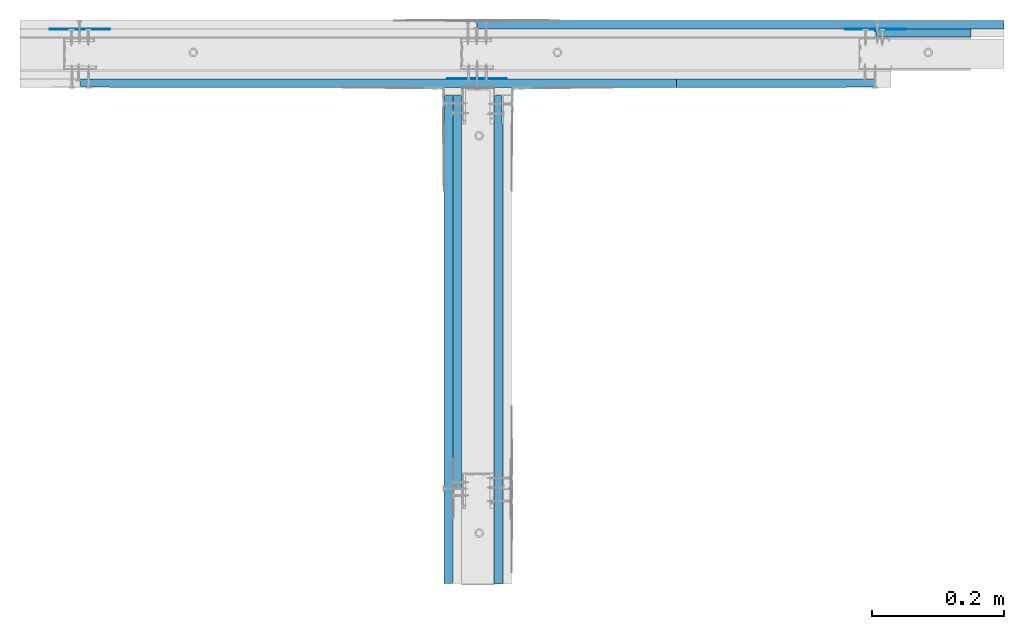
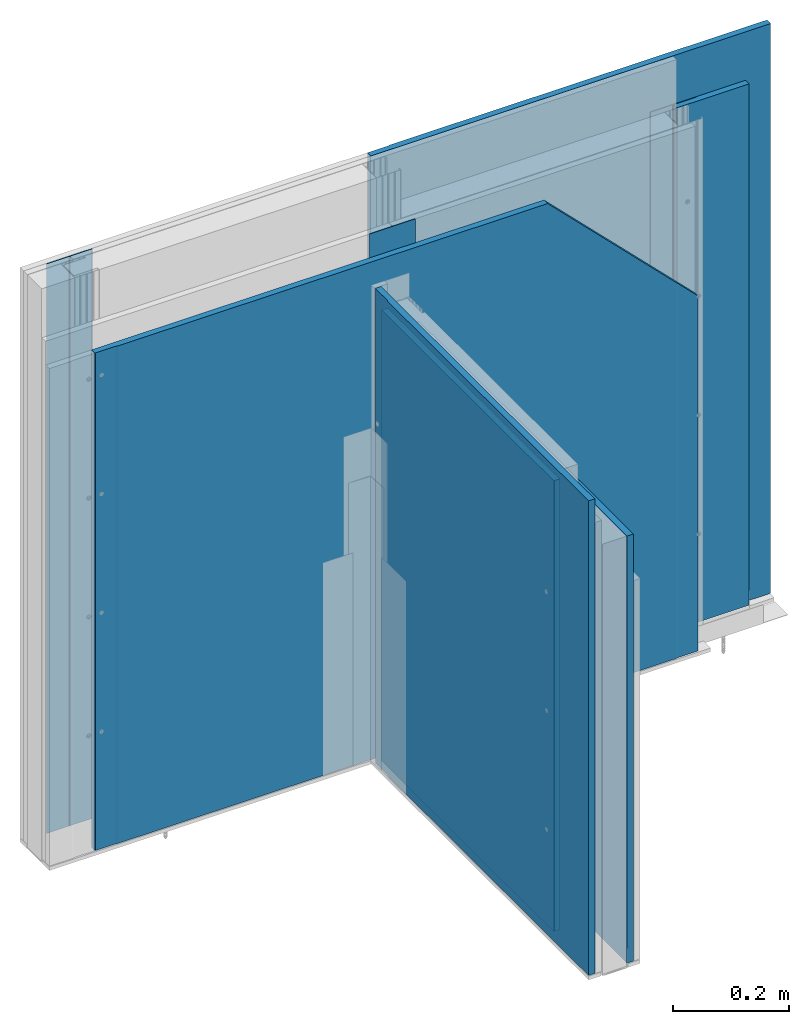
# One storey, part 4 of 89: 9 walls.
"""IFC2X3 building model written with IfcOpenShell, lengths in millimetres."""

from ifc_helpers import new_model, entity, si_unit, converted_unit, direction, frame, origin, origin_with_axes, place, context, project, spatial, faceted_brep, element, save


model = new_model("IFC2X3")

# Units and contexts
model_context = context("Model", 3, precision=1e-05, world=origin(), true_north=direction((0.0, 1.0, 0.0)))
ifc_project = project(units=[si_unit("LENGTHUNIT", "METRE", prefix="MILLI"), si_unit("AREAUNIT", "SQUARE_METRE"), si_unit("VOLUMEUNIT", "CUBIC_METRE"), converted_unit("PLANEANGLEUNIT", "DEGREE", entity("IfcPlaneAngleMeasure", 0.01745), si_unit("PLANEANGLEUNIT", "RADIAN"), dimensions=[0, 0, 0, 0, 0, 0, 0]), si_unit("SOLIDANGLEUNIT", "STERADIAN"), si_unit("MASSUNIT", "GRAM"), si_unit("TIMEUNIT", "SECOND"), si_unit("THERMODYNAMICTEMPERATUREUNIT", "DEGREE_CELSIUS"), si_unit("LUMINOUSINTENSITYUNIT", "LUMEN")], contexts=[model_context])

# Site, building, storey
site_placement = place(None, origin_with_axes())
site = spatial("IfcSite", under=ifc_project, at=site_placement, Name="Default Site", CompositionType="ELEMENT")
building_placement = place(site_placement, origin_with_axes())
building = spatial("IfcBuilding", under=site, at=building_placement, Name="Default Building", CompositionType="ELEMENT")
storey_placement = place(building_placement, origin_with_axes())
storey = spatial("IfcBuildingStorey", under=building, at=storey_placement, Name="Default Building Storey", CompositionType="ELEMENT", Elevation=0.0)

# Walls
wall_1_placement = place(storey_placement, frame((4154.418329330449, -1279.954953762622, 407.7387577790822), z_axis=(0.0, 0.0, 1.0), x_axis=(1.0, 0.0, 0.0)))
element("IfcWall", 1, at=wall_1_placement, inside=storey, Name="Dedykowana masa szpachlowa Rigips - konstrukcyjna", context=model_context, shape_type="Brep", body=[
    faceted_brep([(-737.48383966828, 3387.669590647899, 700.510239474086), (-737.4592163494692, 3387.356721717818, 700.510239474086), (-737.4345930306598, 3387.669590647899, 700.510239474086), (-737.3613293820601, 3387.974755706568, 700.510239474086), (-737.2412293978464, 3388.264702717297, 700.510239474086), (-737.0772503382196, 3388.532292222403, 700.510239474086), (-736.8734299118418, 3388.770935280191, 700.510239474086), (-736.6347868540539, 3388.974755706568, 700.510239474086), (-736.3671973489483, 3389.138734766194, 700.510239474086), (-736.0772503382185, 3389.258834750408, 700.510239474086), (-735.7720852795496, 3389.332098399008, 700.510239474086), (-735.4592163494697, 3389.356721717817, 700.510239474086), (-692.4592163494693, 3389.356721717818, 700.510239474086), (-691.4592163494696, 3390.556721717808, 700.510239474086), (-782.873429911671, 3390.556721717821, 700.510239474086), (-782.873429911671, 3389.356721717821, 700.510239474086), (-739.4592163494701, 3389.356721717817, 700.510239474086), (-739.1463474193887, 3389.332098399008, 700.510239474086), (-738.8411823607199, 3389.258834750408, 700.510239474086), (-738.5512353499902, 3389.138734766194, 700.510239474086), (-738.2836458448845, 3388.974755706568, 700.510239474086), (-738.0450027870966, 3388.770935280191, 700.510239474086), (-737.8411823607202, 3388.532292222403, 700.510239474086), (-737.6772033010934, 3388.264702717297, 700.510239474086), (-737.5571033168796, 3387.974755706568, 700.510239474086), (-691.4592163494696, 3390.556721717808, -395.9886932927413), (-692.4592163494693, 3389.356721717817, -395.9886932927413), (-735.4592163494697, 3389.356721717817, -395.9886932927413), (-735.7720852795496, 3389.332098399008, -395.9886932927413), (-736.0772503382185, 3389.258834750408, -395.9886932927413), (-736.3671973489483, 3389.138734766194, -395.9886932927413), (-736.6347868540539, 3388.974755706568, -395.9886932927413), (-736.8734299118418, 3388.77093528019, -395.9886932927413), (-737.0772503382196, 3388.532292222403, -395.9886932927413), (-737.2412293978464, 3388.264702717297, -395.9886932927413), (-737.3613293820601, 3387.974755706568, -395.9886932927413), (-737.4345930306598, 3387.669590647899, -395.9886932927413), (-737.4592163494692, 3387.356721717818, -395.9886932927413), (-737.48383966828, 3387.669590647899, -395.9886932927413), (-737.5571033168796, 3387.974755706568, -395.9886932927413), (-737.6772033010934, 3388.264702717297, -395.9886932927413), (-737.8411823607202, 3388.532292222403, -395.9886932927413), (-738.0450027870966, 3388.77093528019, -395.9886932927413), (-738.2836458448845, 3388.974755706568, -395.9886932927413), (-738.5512353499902, 3389.138734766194, -395.9886932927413), (-738.8411823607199, 3389.258834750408, -395.9886932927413), (-739.1463474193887, 3389.332098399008, -395.9886932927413), (-739.4592163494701, 3389.356721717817, -395.9886932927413), (-782.873429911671, 3389.356721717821, -395.9886932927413), (-782.873429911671, 3390.556721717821, -395.9886932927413)], [[[0, 1, 2, 3, 4, 5, 6, 7, 8, 9, 10, 11, 12, 13, 14, 15, 16, 17, 18, 19, 20, 21, 22, 23, 24]], [[25, 26, 27, 28, 29, 30, 31, 32, 33, 34, 35, 36, 37, 38, 39, 40, 41, 42, 43, 44, 45, 46, 47, 48, 49]], [[26, 12, 11, 27]], [[10, 9, 29, 28]], [[28, 27, 11, 10]], [[8, 30, 29, 9]], [[7, 6, 32, 31]], [[31, 30, 8, 7]], [[5, 4, 34, 33]], [[33, 32, 6, 5]], [[3, 35, 34, 4]], [[2, 1, 37, 36]], [[36, 35, 3, 2]], [[0, 24, 39, 38]], [[38, 37, 1, 0]], [[23, 40, 39, 24]], [[22, 21, 42, 41]], [[41, 40, 23, 22]], [[20, 19, 44, 43]], [[43, 42, 21, 20]], [[18, 45, 44, 19]], [[17, 16, 47, 46]], [[46, 45, 18, 17]], [[47, 16, 15, 48]], [[48, 15, 14, 49]], [[49, 14, 13, 25]], [[25, 13, 12, 26]]]),
])
wall_2_placement = place(storey_placement, frame((3417.959112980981, 2098.101767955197, 1403.656223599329), z_axis=(0.0, 0.0, 1.0), x_axis=(1.0, 0.0, 0.0)))
element("IfcWall", 2, at=wall_2_placement, inside=storey, Name="Płyta gipsowo-kartonowa RIGIPS PRO (4PRO™)", context=model_context, shape_type="Brep", body=[
    faceted_brep([(143.1967559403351, 12.49999999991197, -295.4072263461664), (143.1967559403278, -8.951701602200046e-11, -295.4072263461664), (143.1967559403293, -8.915606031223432e-11, -1391.906159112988), (143.1967559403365, 12.49999999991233, -1391.906159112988), (0.0, 0.0, -295.4072263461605), (44.99999999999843, 12.50000000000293, -295.4072263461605), (40.99999999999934, 11.50000000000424, -295.4072263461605), (0.9999999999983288, 11.5000000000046, -295.4072263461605), (0.7411809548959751, 11.46592582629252, -295.4072263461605), (0.4999999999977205, 11.3660254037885, -295.4072263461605), (0.2928932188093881, 11.20710678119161, -295.4072263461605), (0.1339745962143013, 11.00000000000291, -295.4072263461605), (0.03407417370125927, 10.7588190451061, -295.4072263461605), (-2.887645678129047e-12, 10.50000000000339, -295.4072263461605), (44.99999999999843, 12.50000000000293, -1391.906159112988), (40.99999999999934, 11.50000000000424, -1391.906159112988), (0.9999999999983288, 11.5000000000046, -1391.906159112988), (0.7411809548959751, 11.46592582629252, -1391.906159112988), (0.4999999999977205, 11.3660254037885, -1391.906159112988), (0.2928932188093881, 11.20710678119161, -1391.906159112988), (0.1339745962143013, 11.00000000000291, -1391.906159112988), (0.03407417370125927, 10.7588190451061, -1391.906159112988), (-2.887645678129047e-12, 10.50000000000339, -1391.906159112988), (0.0, 0.0, -1391.906159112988)], [[[0, 1, 2, 3]], [[4, 1, 0, 5, 6, 7, 8, 9, 10, 11, 12, 13]], [[0, 3, 14, 5]], [[6, 5, 14, 15]], [[7, 6, 15, 16]], [[8, 7, 16, 17]], [[9, 8, 17, 18]], [[10, 9, 18, 19]], [[11, 10, 19, 20]], [[12, 11, 20, 21]], [[13, 12, 21, 22]], [[4, 13, 22, 23]], [[23, 2, 1, 4]], [[14, 3, 2, 23, 22, 21, 20, 19, 18, 17, 16, 15]]]),
])
wall_3_placement = place(storey_placement, frame((2815.544899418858, 2110.601767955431, 1155.534172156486), z_axis=(0.0, 0.0, 1.0), x_axis=(1.0, 0.0, 0.0)))
element("IfcWall", 3, at=wall_3_placement, inside=storey, Name="Płyta gipsowo-kartonowa RIGIPS PRO (4PRO™)", context=model_context, shape_type="Brep", body=[
    faceted_brep([(795.6109695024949, 12.49999999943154, 54.46582784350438), (795.6109695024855, -5.40711653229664e-10, 54.46582784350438), (795.6109695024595, -5.371020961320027e-10, -1143.784107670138), (795.6109695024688, 12.49999999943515, -1143.784107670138), (44.99999999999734, 12.50000000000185, 54.46582784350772), (40.99999999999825, 11.50000000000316, 54.46582784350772), (0.9999999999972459, 11.50000000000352, 54.46582784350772), (0.7411809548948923, 11.46592582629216, 54.46582784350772), (0.4999999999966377, 11.36602540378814, 54.46582784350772), (0.2928932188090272, 11.20710678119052, 54.46582784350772), (0.1339745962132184, 11.00000000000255, 54.46582784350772), (0.0340741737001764, 10.75881904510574, 54.46582784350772), (-3.248601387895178e-12, 10.50000000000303, 54.46582784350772), (-1.082867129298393e-12, -3.609557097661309e-13, 54.46582784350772), (44.99999999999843, 12.50000000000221, -1143.784107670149), (40.99999999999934, 11.50000000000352, -1143.784107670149), (0.9999999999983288, 11.50000000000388, -1143.784107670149), (0.7411809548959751, 11.46592582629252, -1143.784107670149), (0.4999999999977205, 11.3660254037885, -1143.784107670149), (0.29289321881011, 11.20710678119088, -1143.784107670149), (0.1339745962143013, 11.00000000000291, -1143.784107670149), (0.03407417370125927, 10.7588190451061, -1143.784107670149), (-2.165734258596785e-12, 10.50000000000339, -1143.784107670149), (0.0, 0.0, -1143.784107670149)], [[[0, 1, 2, 3]], [[0, 4, 5, 6, 7, 8, 9, 10, 11, 12, 13, 1]], [[3, 14, 4, 0]], [[5, 4, 14, 15]], [[6, 5, 15, 16]], [[7, 6, 16, 17]], [[8, 7, 17, 18]], [[9, 8, 18, 19]], [[10, 9, 19, 20]], [[11, 10, 20, 21]], [[12, 11, 21, 22]], [[13, 12, 22, 23]], [[2, 1, 13, 23]], [[14, 3, 2, 23, 22, 21, 20, 19, 18, 17, 16, 15]]]),
])
wall_4_placement = place(storey_placement, frame((2077.898464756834, 5425.197644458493, 507.4489972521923), z_axis=(9.253708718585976e-14, 3.116096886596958e-13, 1.0), x_axis=(-1.0, 8.88178419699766e-16, 9.253708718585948e-14)))
element("IfcWall", 4, at=wall_4_placement, inside=storey, Name="Dedykowana masa szpachlowa Rigips - konstrukcyjna", context=model_context, shape_type="Brep", body=[
    faceted_brep([(-737.4838396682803, 3387.669590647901, 600.7999999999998), (-737.4592163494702, 3387.35672171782, 600.7999999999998), (-737.434593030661, 3387.669590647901, 600.7999999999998), (-737.3613293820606, 3387.97475570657, 600.7999999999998), (-737.2412293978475, 3388.2647027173, 600.7999999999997), (-737.07725033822, 3388.532292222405, 600.7999999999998), (-736.8734299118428, 3388.770935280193, 600.7999999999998), (-736.6347868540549, 3388.97475570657, 600.7999999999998), (-736.3671973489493, 3389.138734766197, 600.7999999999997), (-736.0772503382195, 3389.258834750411, 600.7999999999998), (-735.7720852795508, 3389.33209839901, 600.7999999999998), (-735.45921634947, 3389.356721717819, 600.8000000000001), (-692.4592163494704, 3389.356721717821, 600.8000000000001), (-691.4592163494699, 3390.55672171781, 600.7999999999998), (-782.4592163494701, 3390.556721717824, 600.8000000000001), (-782.4592163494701, 3389.356721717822, 600.8000000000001), (-739.4592163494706, 3389.356721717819, 600.8000000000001), (-739.1463474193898, 3389.33209839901, 600.7999999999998), (-738.8411823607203, 3389.258834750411, 600.7999999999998), (-738.5512353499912, 3389.138734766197, 600.8000000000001), (-738.2836458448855, 3388.97475570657, 600.8000000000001), (-738.0450027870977, 3388.770935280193, 600.7999999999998), (-737.8411823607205, 3388.532292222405, 600.7999999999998), (-737.6772033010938, 3388.2647027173, 600.7999999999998), (-737.55710331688, 3387.97475570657, 600.7999999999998), (-691.4592163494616, 3390.556721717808, -495.6989327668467), (-692.459216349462, 3389.356721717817, -495.6989327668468), (-735.4592163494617, 3389.356721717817, -495.6989327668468), (-735.7720852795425, 3389.332098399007, -495.6989327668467), (-736.0772503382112, 3389.258834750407, -495.6989327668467), (-736.367197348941, 3389.138734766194, -495.6989327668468), (-736.6347868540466, 3388.974755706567, -495.6989327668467), (-736.8734299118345, 3388.77093528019, -495.6989327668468), (-737.0772503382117, 3388.532292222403, -495.6989327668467), (-737.2412293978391, 3388.264702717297, -495.6989327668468), (-737.3613293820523, 3387.974755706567, -495.6989327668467), (-737.4345930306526, 3387.669590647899, -495.6989327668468), (-737.4592163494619, 3387.356721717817, -495.6989327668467), (-737.483839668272, 3387.669590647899, -495.6989327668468), (-737.5571033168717, 3387.974755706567, -495.6989327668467), (-737.6772033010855, 3388.264702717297, -495.6989327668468), (-737.8411823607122, 3388.532292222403, -495.6989327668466), (-738.0450027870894, 3388.77093528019, -495.6989327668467), (-738.2836458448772, 3388.974755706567, -495.6989327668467), (-738.5512353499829, 3389.138734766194, -495.6989327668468), (-738.841182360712, 3389.258834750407, -495.6989327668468), (-739.1463474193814, 3389.332098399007, -495.6989327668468), (-739.4592163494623, 3389.356721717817, -495.6989327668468), (-782.4592163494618, 3389.356721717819, -495.6989327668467), (-782.4592163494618, 3390.55672171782, -495.6989327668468)], [[[0, 1, 2, 3, 4, 5, 6, 7, 8, 9, 10, 11, 12, 13, 14, 15, 16, 17, 18, 19, 20, 21, 22, 23, 24]], [[25, 26, 27, 28, 29, 30, 31, 32, 33, 34, 35, 36, 37, 38, 39, 40, 41, 42, 43, 44, 45, 46, 47, 48, 49]], [[26, 12, 11, 27]], [[10, 9, 29, 28]], [[28, 27, 11, 10]], [[8, 30, 29, 9]], [[7, 6, 32, 31]], [[31, 30, 8, 7]], [[5, 4, 34, 33]], [[33, 32, 6, 5]], [[3, 35, 34, 4]], [[2, 1, 37, 36]], [[36, 35, 3, 2]], [[0, 24, 39, 38]], [[38, 37, 1, 0]], [[23, 40, 39, 24]], [[22, 21, 42, 41]], [[41, 40, 23, 22]], [[20, 19, 44, 43]], [[43, 42, 21, 20]], [[18, 45, 44, 19]], [[17, 16, 47, 46]], [[46, 45, 18, 17]], [[47, 16, 15, 48]], [[48, 15, 14, 49]], [[49, 14, 13, 25]], [[25, 13, 12, 26]]]),
])
wall_5_placement = place(storey_placement, frame((2953.004115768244, -1279.954953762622, 407.7387577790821), z_axis=(0.0, 0.0, 1.0), x_axis=(1.0, 0.0, 0.0)))
element("IfcWall", 5, at=wall_5_placement, inside=storey, Name="Dedykowana masa szpachlowa Rigips - konstrukcyjna", context=model_context, shape_type="Brep", body=[
    faceted_brep([(-737.48383966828, 3387.669590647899, 802.2612422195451), (-737.4592163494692, 3387.356721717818, 802.2612422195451), (-737.4345930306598, 3387.669590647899, 802.2612422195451), (-737.3613293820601, 3387.974755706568, 802.2612422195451), (-737.2412293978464, 3388.264702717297, 802.2612422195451), (-737.0772503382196, 3388.532292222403, 802.2612422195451), (-736.8734299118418, 3388.770935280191, 802.2612422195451), (-736.6347868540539, 3388.974755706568, 802.2612422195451), (-736.3671973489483, 3389.138734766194, 802.2612422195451), (-736.0772503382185, 3389.258834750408, 802.2612422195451), (-735.7720852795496, 3389.332098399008, 802.2612422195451), (-735.4592163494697, 3389.356721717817, 802.2612422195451), (-692.4592163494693, 3389.356721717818, 802.2612422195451), (-691.4592163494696, 3390.556721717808, 802.2612422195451), (-782.873429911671, 3390.556721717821, 802.2612422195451), (-782.873429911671, 3389.356721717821, 802.2612422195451), (-739.4592163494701, 3389.356721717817, 802.2612422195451), (-739.1463474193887, 3389.332098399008, 802.2612422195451), (-738.8411823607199, 3389.258834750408, 802.2612422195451), (-738.5512353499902, 3389.138734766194, 802.2612422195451), (-738.2836458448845, 3388.974755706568, 802.2612422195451), (-738.0450027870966, 3388.770935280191, 802.2612422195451), (-737.8411823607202, 3388.532292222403, 802.2612422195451), (-737.6772033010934, 3388.264702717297, 802.2612422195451), (-737.5571033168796, 3387.974755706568, 802.2612422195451), (-691.4592163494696, 3390.556721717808, -395.9886932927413), (-692.4592163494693, 3389.356721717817, -395.9886932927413), (-735.4592163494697, 3389.356721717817, -395.9886932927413), (-735.7720852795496, 3389.332098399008, -395.9886932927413), (-736.0772503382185, 3389.258834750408, -395.9886932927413), (-736.3671973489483, 3389.138734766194, -395.9886932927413), (-736.6347868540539, 3388.974755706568, -395.9886932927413), (-736.8734299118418, 3388.77093528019, -395.9886932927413), (-737.0772503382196, 3388.532292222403, -395.9886932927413), (-737.2412293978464, 3388.264702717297, -395.9886932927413), (-737.3613293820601, 3387.974755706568, -395.9886932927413), (-737.4345930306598, 3387.669590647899, -395.9886932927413), (-737.4592163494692, 3387.356721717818, -395.9886932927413), (-737.48383966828, 3387.669590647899, -395.9886932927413), (-737.5571033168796, 3387.974755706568, -395.9886932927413), (-737.6772033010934, 3388.264702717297, -395.9886932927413), (-737.8411823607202, 3388.532292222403, -395.9886932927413), (-738.0450027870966, 3388.77093528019, -395.9886932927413), (-738.2836458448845, 3388.974755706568, -395.9886932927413), (-738.5512353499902, 3389.138734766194, -395.9886932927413), (-738.8411823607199, 3389.258834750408, -395.9886932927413), (-739.1463474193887, 3389.332098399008, -395.9886932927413), (-739.4592163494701, 3389.356721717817, -395.9886932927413), (-782.873429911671, 3389.356721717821, -395.9886932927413), (-782.873429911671, 3390.556721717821, -395.9886932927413)], [[[0, 1, 2, 3, 4, 5, 6, 7, 8, 9, 10, 11, 12, 13, 14, 15, 16, 17, 18, 19, 20, 21, 22, 23, 24]], [[25, 26, 27, 28, 29, 30, 31, 32, 33, 34, 35, 36, 37, 38, 39, 40, 41, 42, 43, 44, 45, 46, 47, 48, 49]], [[26, 12, 11, 27]], [[10, 9, 29, 28]], [[28, 27, 11, 10]], [[8, 30, 29, 9]], [[7, 6, 32, 31]], [[31, 30, 8, 7]], [[5, 4, 34, 33]], [[33, 32, 6, 5]], [[3, 35, 34, 4]], [[2, 1, 37, 36]], [[36, 35, 3, 2]], [[0, 24, 39, 38]], [[38, 37, 1, 0]], [[23, 40, 39, 24]], [[22, 21, 42, 41]], [[41, 40, 23, 22]], [[20, 19, 44, 43]], [[43, 42, 21, 20]], [[18, 45, 44, 19]], [[17, 16, 47, 46]], [[46, 45, 18, 17]], [[47, 16, 15, 48]], [[48, 15, 14, 49]], [[49, 14, 13, 25]], [[25, 13, 12, 26]]]),
])
wall_6_placement = place(storey_placement, frame((3416.54489941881, 2034.64092274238, 1033.9739172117), z_axis=(0.0, 0.0, 1.0), x_axis=(-1.0, -6.389333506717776e-13, 0.0)))
element("IfcWall", 6, at=wall_6_placement, inside=storey, Name="Płyta gipsowo-kartonowa RIGIPS PRO (4PRO™)", context=model_context, shape_type="Brep", body=[
    faceted_brep([(1199.0, 11.49999999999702, -1022.223852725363), (1198.999999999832, 11.50000000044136, 24.27508004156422), (1199.258819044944, 11.4659258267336, 24.27508004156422), (1199.258819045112, 11.46592582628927, -1022.223852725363), (40.99999999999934, 11.50000000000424, -1022.223852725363), (41.00000000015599, 11.50000000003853, -234.7249199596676), (45.00000000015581, 12.50000000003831, -230.7249199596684), (44.99999999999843, 12.50000000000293, -1022.223852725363), (1.443822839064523e-12, 10.50000000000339, -1022.223852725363), (6.42501163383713e-11, 10.50000000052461, -275.7249199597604), (0.03407417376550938, 10.75881904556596, -275.6908457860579), (0.03407417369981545, 10.7588190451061, -1022.223852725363), (0.4999999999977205, 11.3660254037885, -1022.223852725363), (0.5000000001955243, 11.36602540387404, -275.2249199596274), (0.7411809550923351, 11.4659258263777, -274.9837390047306), (0.7411809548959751, 11.46592582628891, -1022.223852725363), (1199.965925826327, 10.75881904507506, -1022.223852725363), (1200.000000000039, 10.49999999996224, -1022.223852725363), (1200.0, 0.0, -1022.223852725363), (0.0, 0.0, -1022.223852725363), (0.1339745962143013, 10.9999999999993, -1022.223852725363), (0.29289321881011, 11.20710678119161, -1022.223852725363), (0.9999999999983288, 11.5000000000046, -1022.223852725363), (1155.000000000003, 12.4999999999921, -1022.223852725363), (1159.0, 11.50000000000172, -1022.223852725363), (1199.500000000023, 11.36602540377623, -1022.223852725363), (1199.707106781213, 11.20710678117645, -1022.223852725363), (1199.866025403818, 10.99999999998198, -1022.223852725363), (1154.999999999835, 12.50000000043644, 24.27508004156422), (300.0000000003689, 12.50000000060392, 24.27508004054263), (300.0000000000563, -5.342144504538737e-11, 24.27508004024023), (1199.999999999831, 4.443364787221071e-10, 24.27508004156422), (1199.999999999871, 10.50000000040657, 24.27508004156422), (1199.965925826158, 10.7588190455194, 24.27508004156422), (1199.86602540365, 11.00000000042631, 24.27508004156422), (1199.707106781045, 11.20710678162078, 24.27508004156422), (1199.499999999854, 11.36602540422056, 24.27508004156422), (1158.999999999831, 11.50000000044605, 24.27508004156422), (2.165734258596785e-12, 6.504421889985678e-10, -275.7249199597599), (0.2928932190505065, 11.20710678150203, -275.432026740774), (1.000000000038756, 11.5000000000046, -274.724919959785), (0.1339745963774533, 11.00000000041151, -275.5909453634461)], [[[0, 1, 2, 3]], [[4, 5, 6, 7]], [[8, 9, 10, 11]], [[12, 13, 14, 15]], [[16, 17, 18, 19, 8, 11, 20, 21, 12, 15, 22, 4, 7, 23, 24, 0, 3, 25, 26, 27]], [[28, 29, 30, 31, 32, 33, 34, 35, 36, 2, 1, 37]], [[8, 19, 38, 9]], [[21, 39, 13, 12]], [[30, 29, 6, 5, 40, 14, 13, 39, 41, 10, 9, 38]], [[24, 37, 1, 0]], [[11, 10, 41, 20]], [[17, 32, 31, 18]], [[16, 33, 32, 17]], [[23, 28, 37, 24]], [[22, 40, 5, 4]], [[25, 36, 35, 26]], [[15, 14, 40, 22]], [[20, 41, 39, 21]], [[3, 2, 36, 25]], [[27, 34, 33, 16]], [[7, 6, 29, 28, 23]], [[26, 35, 34, 27]], [[31, 30, 38, 19, 18]]]),
])
wall_7_placement = place(storey_placement, frame((2841.474108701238, 809.7700029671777, 1161.751646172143), z_axis=(0.0, 0.0, 1.0), x_axis=(6.387668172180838e-13, 1.0, 0.0)))
element("IfcWall", 7, at=wall_7_placement, inside=storey, Name="Płyta gipsowo-kartonowa RIGIPS PRO (4PRO™)", context=model_context, shape_type="Brep", body=[
    faceted_brep([(462.3677895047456, 2.909303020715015e-10, -251.7510027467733), (462.3677895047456, -12.49999999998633, -251.7510027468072), (462.367789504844, -12.49999999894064, -1150.001581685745), (462.367789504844, 1.336618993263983e-09, -1150.001581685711), (1155.000000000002, -12.49999999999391, -251.751002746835), (1200.0, 3.609557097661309e-13, -251.751002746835), (1200.00000000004, -10.49999999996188, -251.751002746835), (1199.965925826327, -10.75881904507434, -251.751002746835), (1199.866025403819, -10.99999999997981, -251.751002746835), (1199.707106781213, -11.20710678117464, -251.751002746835), (1199.500000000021, -11.36602540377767, -251.751002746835), (1199.258819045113, -11.46592582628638, -251.751002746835), (1199.0, -11.49999999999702, -251.751002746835), (1159.0, -11.49999999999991, -251.751002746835), (1199.965925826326, -10.75881904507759, -1150.001581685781), (1199.866025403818, -10.99999999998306, -1150.001581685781), (1199.707106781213, -11.20710678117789, -1150.001581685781), (1199.50000000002, -11.36602540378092, -1150.001581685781), (1199.258819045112, -11.46592582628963, -1150.001581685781), (1199.0, -11.50000000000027, -1150.001581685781), (1158.999999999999, -11.50000000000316, -1150.001581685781), (1155.000000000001, -12.49999999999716, -1150.001581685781), (1200.0, -2.887645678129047e-12, -1150.001581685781), (1200.000000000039, -10.49999999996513, -1150.001581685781)], [[[0, 1, 2, 3]], [[4, 1, 0, 5, 6, 7, 8, 9, 10, 11, 12, 13]], [[8, 7, 14, 15]], [[9, 8, 15, 16]], [[10, 9, 16, 17]], [[11, 10, 17, 18]], [[12, 11, 18, 19]], [[13, 12, 19, 20]], [[4, 13, 20, 21]], [[21, 2, 1, 4]], [[0, 3, 22, 5]], [[6, 5, 22, 23]], [[7, 6, 23, 14]], [[14, 23, 22, 3, 2, 21, 20, 19, 18, 17, 16, 15]]]),
])
wall_8_placement = place(storey_placement, frame((2777.974108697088, 809.7700029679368, 1161.751646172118), z_axis=(0.0, 0.0, 1.0), x_axis=(-6.387668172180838e-13, 1.0, 0.0)))
element("IfcWall", 8, at=wall_8_placement, inside=storey, Name="Płyta gipsowo-kartonowa RIGIPS PRO (4PRO™)", context=model_context, shape_type="Brep", body=[
    faceted_brep([(463.3677895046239, -1.768682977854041e-10, -151.7510027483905), (463.3677895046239, 12.50000000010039, -151.7510027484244), (463.3677895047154, 12.4999999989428, -1150.001581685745), (463.3677895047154, -1.334453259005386e-09, -1150.001581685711), (1155.000000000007, 12.50000000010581, -151.7510027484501), (1200.000000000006, 1.122572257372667e-10, -151.7510027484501), (1200.000000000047, 10.5000000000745, -151.7510027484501), (1199.965925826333, 10.75881904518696, -151.7510027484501), (1199.866025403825, 11.00000000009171, -151.7510027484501), (1199.707106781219, 11.20710678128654, -151.7510027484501), (1199.500000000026, 11.36602540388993, -151.7510027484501), (1199.258819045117, 11.46592582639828, -151.7510027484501), (1199.000000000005, 11.50000000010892, -151.7510027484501), (1159.000000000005, 11.50000000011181, -151.7510027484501), (1199.965925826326, 10.75881904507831, -1150.001581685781), (1199.866025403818, 10.99999999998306, -1150.001581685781), (1199.707106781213, 11.20710678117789, -1150.001581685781), (1199.50000000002, 11.36602540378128, -1150.001581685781), (1199.258819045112, 11.46592582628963, -1150.001581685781), (1198.999999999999, 11.50000000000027, -1150.001581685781), (1158.999999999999, 11.50000000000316, -1150.001581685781), (1155.0, 12.49999999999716, -1150.001581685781), (1200.0, 3.609557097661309e-12, -1150.001581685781), (1200.000000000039, 10.49999999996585, -1150.001581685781)], [[[0, 1, 2, 3]], [[4, 1, 0, 5, 6, 7, 8, 9, 10, 11, 12, 13]], [[8, 7, 14, 15]], [[9, 8, 15, 16]], [[10, 9, 16, 17]], [[11, 10, 17, 18]], [[12, 11, 18, 19]], [[13, 12, 19, 20]], [[4, 13, 20, 21]], [[21, 2, 1, 4]], [[0, 3, 22, 5]], [[6, 5, 22, 23]], [[7, 6, 23, 14]], [[14, 23, 22, 3, 2, 21, 20, 19, 18, 17, 16, 15]]]),
])
wall_9_placement = place(storey_placement, frame((2791.474108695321, 2617.193281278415, 1161.751646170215), z_axis=(0.0, 0.0, 1.0), x_axis=(6.387668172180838e-13, -1.0, 0.0)))
element("IfcWall", 9, at=wall_9_placement, inside=storey, Name="Płyta gipsowo-kartonowa RIGIPS PRO (4PRO™)", context=model_context, shape_type="Brep", body=[
    faceted_brep([(607.4232783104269, 2.263192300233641e-10, -201.751002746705), (607.4232783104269, -12.50000000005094, -201.7510027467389), (607.4232783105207, -12.49999999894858, -1150.001581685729), (607.4232783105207, 1.328677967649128e-09, -1150.001581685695), (1155.000000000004, -12.50000000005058, -201.7510027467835), (1200.000000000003, -5.703100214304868e-11, -201.7510027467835), (1200.000000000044, -10.50000000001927, -201.7510027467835), (1199.96592582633, -10.75881904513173, -201.7510027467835), (1199.866025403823, -11.00000000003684, -201.7510027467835), (1199.707106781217, -11.20710678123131, -201.7510027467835), (1199.500000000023, -11.3660254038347, -201.7510027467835), (1199.258819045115, -11.46592582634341, -201.7510027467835), (1199.000000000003, -11.50000000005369, -201.7510027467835), (1159.000000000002, -11.50000000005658, -201.7510027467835), (1199.965925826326, -10.75881904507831, -1150.001581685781), (1199.866025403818, -10.99999999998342, -1150.001581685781), (1199.707106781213, -11.20710678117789, -1150.001581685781), (1199.50000000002, -11.36602540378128, -1150.001581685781), (1199.258819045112, -11.46592582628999, -1150.001581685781), (1198.999999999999, -11.50000000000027, -1150.001581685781), (1158.999999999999, -11.50000000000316, -1150.001581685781), (1155.000000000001, -12.49999999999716, -1150.001581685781), (1200.0, -3.609557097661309e-12, -1150.001581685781), (1200.000000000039, -10.49999999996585, -1150.001581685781)], [[[0, 1, 2, 3]], [[4, 1, 0, 5, 6, 7, 8, 9, 10, 11, 12, 13]], [[8, 7, 14, 15]], [[9, 8, 15, 16]], [[10, 9, 16, 17]], [[11, 10, 17, 18]], [[12, 11, 18, 19]], [[13, 12, 19, 20]], [[4, 13, 20, 21]], [[21, 2, 1, 4]], [[0, 3, 22, 5]], [[6, 5, 22, 23]], [[7, 6, 23, 14]], [[14, 23, 22, 3, 2, 21, 20, 19, 18, 17, 16, 15]]]),
])

save(model, "model.ifc")
